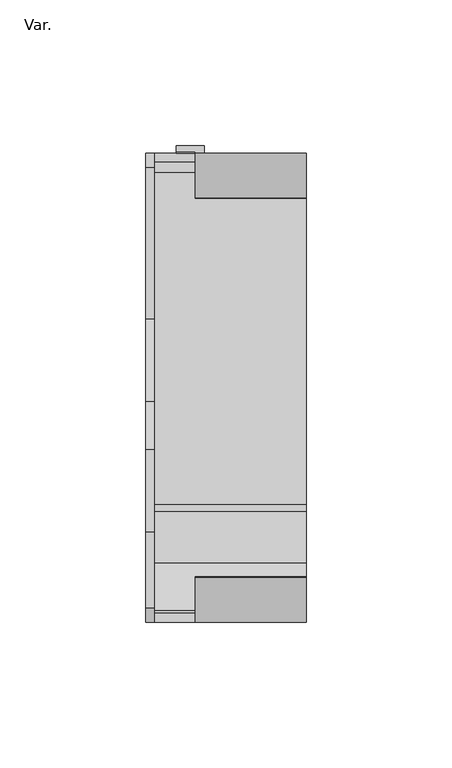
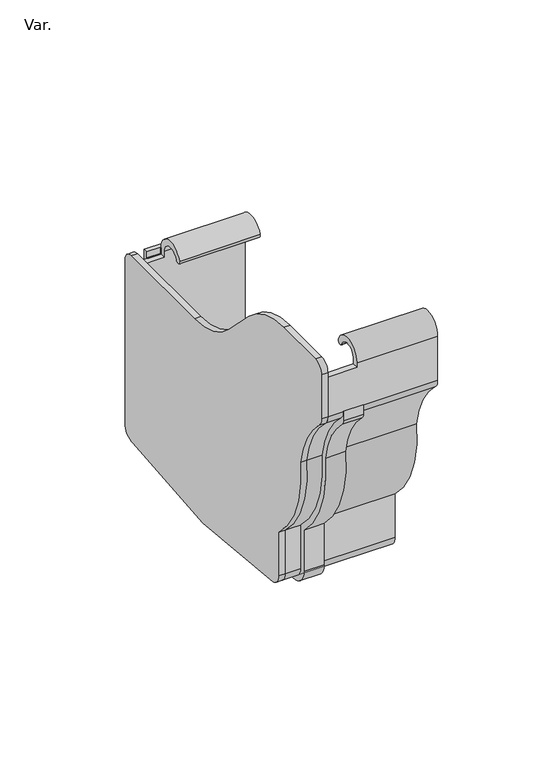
"""IFC4 building model written with IfcOpenShell, lengths in millimetres: pipe fitting geometry, PavcoWavin_UnionesDeTuberia_Canal Amazona_Tapa Izquierda Externa : Var.."""

from ifc_helpers import new_model, si_unit, frame, origin, place, context, project, spatial, polyline, circle_curve, source, transform, mapped, element, save
from ifc_brep_helpers import plane_surface, cylinder_surface, revolved_surface, advanced_brep


def var_52457260(model_context):
    return source(origin(), model_context, "Body", "AdvancedBrep", [
        advanced_brep(
        [(-55.0, 63.9333621, 95.4959393), (-55.0, 63.9333621, 13.8433205), (-55.0, 57.5122662, 7.8581156), (-55.0, -57.1983327, 7.9880254), (-55.0, -62.0670241, 13.8960326), (-55.0, -62.0670241, 35.6709016), (-55.0, -79.7697905, 81.3073788), (-55.0, -95.0881417, 109.0993235), (-55.0, -97.0620322, 113.5508008), (-55.0, -97.0620322, 135.5000106), (-55.0, -92.0620322, 140.5000106), (-55.0, -66.0531783, 140.5000106), (-55.0, -37.768907, 128.7842818), (-55.0, -21.1962934, 112.2116681), (-55.0, 7.0879779, 100.4959393), (-55.0, 58.9329759, 100.4959393), (-52.0, 63.9329759, 95.4959393), (-52.0, 58.9329759, 100.4959393), (-52.0, 7.0879779, 100.4959393), (-52.0, -21.1962934, 112.2116681), (-52.0, -37.7689071, 128.7842818), (-52.0, -66.0531783, 140.5000106), (-52.0, -92.0620322, 140.5000106), (-52.0, -97.0620322, 135.5000106), (-52.0, -97.0620322, 113.5508008), (-52.0, -95.0881417, 109.0993235), (-52.0, -79.7697905, 81.3073788), (-52.0, -62.0670241, 35.6709016), (-52.0, -62.0670241, 13.8960326), (-52.0, -57.1983327, 7.9880254), (-52.0, 57.5122662, 7.8581156), (-52.0, 63.9333621, 13.8433205)],
        [
            (0, 1),
            (1, 2, circle_curve(frame((-55.0, 57.9333621, 13.8433205), z_axis=(-1.0, 0.0, 0.0), x_axis=(0.0, -1.0, 0.0)), 6.0)),
            (2, 3, circle_curve(frame((-55.0, 0.4926203, 304.3058025), z_axis=(-1.0, 0.0, 0.0), x_axis=(0.0, -1.0, 0.0)), 301.8815514)),
            (3, 4, circle_curve(frame((-55.0, -56.048086, 13.8960326), z_axis=(-1.0, 0.0, 0.0), x_axis=(0.0, -1.0, 0.0)), 6.0189381)),
            (4, 5),
            (5, 6, circle_curve(frame((-55.0, -27.0899596, 75.4905571), z_axis=(-1.0, 0.0, 0.0), x_axis=(0.0, -1.0, 0.0)), 53.0)),
            (6, 7, circle_curve(frame((-55.0, -127.8669225, 72.914777), z_axis=(1.0, 0.0, 0.0), x_axis=(0.0, -1.0, 0.0)), 48.8238658)),
            (7, 8, circle_curve(frame((-55.0, -91.0556468, 113.5508008), z_axis=(-1.0, 0.0, 0.0), x_axis=(0.0, -1.0, 0.0)), 6.0063854)),
            (8, 9),
            (9, 10, circle_curve(frame((-55.0, -92.0620322, 135.5000106), z_axis=(-1.0, 0.0, 0.0), x_axis=(0.0, -1.0, 0.0)), 5.0)),
            (10, 11),
            (11, 12, circle_curve(frame((-55.0, -66.0531783, 100.5000106), z_axis=(-1.0, 0.0, 0.0), x_axis=(0.0, -1.0, 0.0)), 40.0)),
            (12, 13),
            (13, 14, circle_curve(frame((-55.0, 7.0879779, 140.4959393), z_axis=(1.0, 0.0, 0.0), x_axis=(0.0, -1.0, 0.0)), 40.0)),
            (14, 15),
            (15, 0, circle_curve(frame((-55.0, 58.9329759, 95.4959393), z_axis=(-1.0, 0.0, 0.0), x_axis=(0.0, -1.0, 0.0)), 5.0)),
            (16, 17, circle_curve(frame((-52.0, 58.9329759, 95.4959393), z_axis=(1.0, 0.0, 0.0), x_axis=(0.0, -1.0, 0.0)), 5.0)),
            (17, 18),
            (18, 19, circle_curve(frame((-52.0, 7.0879779, 140.4959393), z_axis=(-1.0, 0.0, 0.0), x_axis=(0.0, -1.0, 0.0)), 40.0)),
            (19, 20),
            (20, 21, circle_curve(frame((-52.0, -66.0531783, 100.5000106), z_axis=(1.0, 0.0, 0.0), x_axis=(0.0, -1.0, 0.0)), 40.0)),
            (21, 22),
            (22, 23, circle_curve(frame((-52.0, -92.0620322, 135.5000106), z_axis=(1.0, 0.0, 0.0), x_axis=(0.0, -1.0, 0.0)), 5.0)),
            (23, 24),
            (24, 25, circle_curve(frame((-52.0, -91.0556468, 113.5508008), z_axis=(1.0, 0.0, 0.0), x_axis=(0.0, -1.0, 0.0)), 6.0063854)),
            (25, 26, circle_curve(frame((-52.0, -127.8669225, 72.914777), z_axis=(-1.0, 0.0, 0.0), x_axis=(0.0, -1.0, 0.0)), 48.8238658)),
            (26, 27, circle_curve(frame((-52.0, -27.0899596, 75.4905571), z_axis=(1.0, 0.0, 0.0), x_axis=(0.0, -1.0, 0.0)), 53.0)),
            (27, 28),
            (28, 29, circle_curve(frame((-52.0, -56.048086, 13.8960326), z_axis=(1.0, 0.0, 0.0), x_axis=(0.0, -1.0, 0.0)), 6.0189381)),
            (29, 30, circle_curve(frame((-52.0, 0.4926203, 304.3058025), z_axis=(1.0, 0.0, 0.0), x_axis=(0.0, -1.0, 0.0)), 301.8815514)),
            (30, 31, circle_curve(frame((-52.0, 57.9333621, 13.8433205), z_axis=(1.0, 0.0, 0.0), x_axis=(0.0, -1.0, 0.0)), 6.0)),
            (31, 16),
            (14, 18),
            (17, 15),
            (13, 19),
            (12, 20),
            (11, 21),
            (10, 22),
            (8, 24),
            (23, 9),
            (7, 25),
            (6, 26),
            (5, 27),
            (4, 28),
            (3, 29),
            (2, 30),
            (1, 31),
            (0, 16),
        ],
        [
            plane_surface(frame((-55.0, 63.9333621, 13.8433205), z_axis=(-1.0, 0.0, 0.0), x_axis=(0.0, 0.0, -1.0))),
            plane_surface(frame((-52.0, 63.9333621, 13.8433205), z_axis=(1.0, 0.0, 0.0), x_axis=(0.0, 0.0, 1.0))),
            plane_surface(frame((-55.0, 7.0879779, 100.4959393), z_axis=(0.0, 0.0, 1.0), x_axis=(1.0, 0.0, 0.0))),
            revolved_surface(polyline([(-52.0, -32.9120221, 140.4959393), (-55.0, -32.9120221, 140.4959393)]), (-52.0, 7.0879779, 140.4959393), (1.0, 0.0, 0.0)),
            plane_surface(frame((-55.0, -37.7689071, 128.7842818), z_axis=(0.0, 0.7071067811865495, 0.7071067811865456), x_axis=(1.0, 0.0, 0.0))),
            cylinder_surface(frame((-52.0, -66.0531783, 100.5000106), z_axis=(-1.0, 0.0, 0.0), x_axis=(0.0, -1.0, 0.0)), 40.0),
            plane_surface(frame((-55.0, -92.0620322, 140.5000106), z_axis=(0.0, 0.0, 1.0), x_axis=(1.0, 0.0, 0.0))),
            plane_surface(frame((-55.0, -97.0620322, 113.5508008), z_axis=(0.0, -1.0, 0.0), x_axis=(1.0, 0.0, 0.0))),
            cylinder_surface(frame((-52.0, -91.0556468, 113.5508008), z_axis=(-1.0, 0.0, 0.0), x_axis=(0.0, -1.0, 0.0)), 6.0063854),
            revolved_surface(polyline([(-52.0, -176.6907883, 72.914777), (-55.0, -176.6907883, 72.914777)]), (-52.0, -127.8669225, 72.914777), (1.0, 0.0, 0.0)),
            cylinder_surface(frame((-52.0, -27.0899596, 75.4905571), z_axis=(-1.0, 0.0, 0.0), x_axis=(0.0, -1.0, 0.0)), 53.0),
            plane_surface(frame((-55.0, -62.0670241, 13.8960326), z_axis=(0.0, -1.0, 0.0), x_axis=(1.0, 0.0, 0.0))),
            cylinder_surface(frame((-52.0, -56.048086, 13.8960326), z_axis=(-1.0, 0.0, 0.0), x_axis=(0.0, -1.0, 0.0)), 6.0189381),
            cylinder_surface(frame((-52.0, 0.4926203, 304.3058025), z_axis=(-1.0, 0.0, 0.0), x_axis=(0.0, -1.0, 0.0)), 301.8815514),
            cylinder_surface(frame((-52.0, 57.9333621, 13.8433205), z_axis=(-1.0, 0.0, 0.0), x_axis=(0.0, -1.0, 0.0)), 6.0),
            plane_surface(frame((-55.0, 63.9333621, 95.4959393), z_axis=(0.0, 1.0, 0.0), x_axis=(1.0, 0.0, 0.0))),
            cylinder_surface(frame((-52.0, 58.9329759, 95.4959393), z_axis=(-1.0, 0.0, 0.0), x_axis=(0.0, -1.0, 0.0)), 5.0),
            cylinder_surface(frame((-52.0, -92.0620322, 135.5000106), z_axis=(-1.0, 0.0, 0.0), x_axis=(0.0, -1.0, 0.0)), 5.0),
        ],
        [
            (0, [[1, 2, 3, 4, 5, 6, 7, 8, 9, 10, 11, 12, 13, 14, 15, 16]]),
            (1, [[17, 18, 19, 20, 21, 22, 23, 24, 25, 26, 27, 28, 29, 30, 31, 32]]),
            (2, [[-15, 33, -18, 34]]),
            (3, [[-14, 35, -19, -33]]),
            (4, [[-13, 36, -20, -35]]),
            (5, [[-12, 37, -21, -36]]),
            (6, [[-11, 38, -22, -37]]),
            (7, [[-9, 39, -24, 40]]),
            (8, [[-8, 41, -25, -39]]),
            (9, [[-7, 42, -26, -41]]),
            (10, [[-6, 43, -27, -42]]),
            (11, [[-5, 44, -28, -43]]),
            (12, [[-4, 45, -29, -44]]),
            (13, [[-3, 46, -30, -45]]),
            (14, [[-2, 47, -31, -46]]),
            (15, [[-1, 48, -32, -47]]),
            (16, [[-16, -34, -17, -48]]),
            (17, [[-10, -40, -23, -38]]),
        ],
    ),
        advanced_brep(
        [(-38.0, 64.3329759, 92.5142277), (-38.0, 63.9333621, 92.5142277), (-38.0, 63.9333621, 95.4959393), (-38.0, 64.3329759, 95.4959393), (-44.5, 64.3329759, 95.4959393), (-44.5, 64.3329759, 92.5142277), (-44.5, 63.9333621, 92.5142277), (-35.0, 63.9333621, 13.8433205), (-35.0, 57.5122662, 7.8581156), (-35.0, -57.1983327, 7.9880254), (-35.0, -62.0670241, 13.8960326), (-35.0, -62.0670241, 35.6709016), (-35.0, -79.7697905, 81.3073788), (-35.0, -95.0881417, 109.0993235), (-35.0, -97.0620322, 113.5508008), (-35.0, -97.0620322, 108.8443434), (-35.0, -95.5375964, 106.1577389), (-35.0, -82.2895831, 81.2569737), (-35.0, -64.5670241, 34.5550024), (-35.0, -64.5670241, 13.8990047), (-35.0, -57.6697029, 5.5328655), (-35.0, 57.6872434, 5.3468845), (-35.0, 66.4333621, 13.8433205), (-35.0, 66.4333621, 95.4959393), (-35.0, 63.9333621, 95.4959393), (-44.5, 66.4333621, 95.4959393), (-44.5, 66.4333621, 13.8433205), (-44.5, 57.6872434, 5.3468845), (-44.5, -57.6697029, 5.5328655), (-44.5, -64.5670241, 13.8990047), (-44.5, -64.5670241, 34.5550024), (-44.5, -82.2895831, 81.2569737), (-44.5, -95.5375964, 106.1577389), (-44.5, -97.0620322, 108.8443434), (-44.5, -97.0620322, 113.5508008), (-44.5, -95.0881417, 109.0993235), (-44.5, -79.7697905, 81.3073788), (-44.5, -62.0670241, 35.6709016), (-44.5, -62.0670241, 13.8960326), (-44.5, -57.1983327, 7.9880254), (-44.5, 57.5122662, 7.8581156), (-44.5, 63.9333621, 13.8433205)],
        [
            (0, 1),
            (1, 2),
            (2, 3),
            (3, 0),
            (3, 4),
            (4, 5),
            (5, 0),
            (5, 6),
            (6, 1),
            (7, 8, circle_curve(frame((-35.0, 57.9333621, 13.8433205), z_axis=(-1.0, 0.0, 0.0), x_axis=(0.0, -1.0, 0.0)), 6.0)),
            (8, 9, circle_curve(frame((-35.0, 0.4973698, 308.4995991), z_axis=(-1.0, 0.0, 0.0), x_axis=(0.0, -1.0, 0.0)), 306.0)),
            (9, 10, circle_curve(frame((-35.0, -56.0670445, 13.8804092), z_axis=(-1.0, 0.0, 0.0), x_axis=(0.0, -1.0, 0.0)), 6.0)),
            (10, 11),
            (11, 12, circle_curve(frame((-35.0, -27.0899596, 75.4905571), z_axis=(-1.0, 0.0, 0.0), x_axis=(0.0, -1.0, 0.0)), 53.0)),
            (12, 13, circle_curve(frame((-35.0, -124.3078979, 74.8764385), z_axis=(1.0, 0.0, 0.0), x_axis=(0.0, -1.0, 0.0)), 45.0)),
            (13, 14, circle_curve(frame((-35.0, -91.4286587, 113.3853985), z_axis=(-1.0, 0.0, 0.0), x_axis=(0.0, -1.0, 0.0)), 5.6358012)),
            (14, 15),
            (15, 16, circle_curve(frame((-35.0, -92.121652, 109.8718183), z_axis=(1.0, 0.0, 0.0), x_axis=(0.0, -1.0, 0.0)), 5.0460937)),
            (16, 17, circle_curve(frame((-35.0, -124.3078979, 74.8764385), z_axis=(-1.0, 0.0, 0.0), x_axis=(0.0, -1.0, 0.0)), 42.5)),
            (17, 18, circle_curve(frame((-35.0, -27.0899596, 75.4905571), z_axis=(1.0, 0.0, 0.0), x_axis=(0.0, -1.0, 0.0)), 55.5)),
            (18, 19),
            (19, 20, circle_curve(frame((-35.0, -56.0670445, 13.8804092), z_axis=(1.0, 0.0, 0.0), x_axis=(0.0, -1.0, 0.0)), 8.5)),
            (20, 21, circle_curve(frame((-35.0, 0.4973698, 308.4995991), z_axis=(1.0, 0.0, 0.0), x_axis=(0.0, -1.0, 0.0)), 308.5)),
            (21, 22, circle_curve(frame((-35.0, 57.9333621, 13.8433205), z_axis=(1.0, 0.0, 0.0), x_axis=(0.0, -1.0, 0.0)), 8.5)),
            (22, 23),
            (23, 24),
            (24, 7),
            (25, 26),
            (26, 27, circle_curve(frame((-44.5, 57.9333621, 13.8433205), z_axis=(-1.0, 0.0, 0.0), x_axis=(0.0, -1.0, 0.0)), 8.5)),
            (27, 28, circle_curve(frame((-44.5, 0.4973698, 308.4995991), z_axis=(-1.0, 0.0, 0.0), x_axis=(0.0, -1.0, 0.0)), 308.5)),
            (28, 29, circle_curve(frame((-44.5, -56.0670445, 13.8804092), z_axis=(-1.0, 0.0, 0.0), x_axis=(0.0, -1.0, 0.0)), 8.5)),
            (29, 30),
            (30, 31, circle_curve(frame((-44.5, -27.0899596, 75.4905571), z_axis=(-1.0, 0.0, 0.0), x_axis=(0.0, -1.0, 0.0)), 55.5)),
            (31, 32, circle_curve(frame((-44.5, -124.3078979, 74.8764385), z_axis=(1.0, 0.0, 0.0), x_axis=(0.0, -1.0, 0.0)), 42.5)),
            (32, 33, circle_curve(frame((-44.5, -92.121652, 109.8718183), z_axis=(-1.0, 0.0, 0.0), x_axis=(0.0, -1.0, 0.0)), 5.0460937)),
            (33, 34),
            (34, 35, circle_curve(frame((-44.5, -91.4286587, 113.3853985), z_axis=(1.0, 0.0, 0.0), x_axis=(0.0, -1.0, 0.0)), 5.6358012)),
            (35, 36, circle_curve(frame((-44.5, -124.3078979, 74.8764385), z_axis=(-1.0, 0.0, 0.0), x_axis=(0.0, -1.0, 0.0)), 45.0)),
            (36, 37, circle_curve(frame((-44.5, -27.0899596, 75.4905571), z_axis=(1.0, 0.0, 0.0), x_axis=(0.0, -1.0, 0.0)), 53.0)),
            (37, 38),
            (38, 39, circle_curve(frame((-44.5, -56.0670445, 13.8804092), z_axis=(1.0, 0.0, 0.0), x_axis=(0.0, -1.0, 0.0)), 6.0)),
            (39, 40, circle_curve(frame((-44.5, 0.4973698, 308.4995991), z_axis=(1.0, 0.0, 0.0), x_axis=(0.0, -1.0, 0.0)), 306.0)),
            (40, 41, circle_curve(frame((-44.5, 57.9333621, 13.8433205), z_axis=(1.0, 0.0, 0.0), x_axis=(0.0, -1.0, 0.0)), 6.0)),
            (41, 6),
            (4, 25),
            (24, 2),
            (41, 7),
            (40, 8),
            (39, 9),
            (38, 10),
            (37, 11),
            (36, 12),
            (35, 13),
            (34, 14),
            (33, 15),
            (32, 16),
            (31, 17),
            (30, 18),
            (29, 19),
            (28, 20),
            (27, 21),
            (26, 22),
            (25, 23),
        ],
        [
            plane_surface(frame((-38.0, -97.5403218, 133.3051321), z_axis=(-1.0, 0.0, 0.0), x_axis=(0.0, 0.0, -1.0))),
            plane_surface(frame((-52.0, 64.3329759, 108.4617617), z_axis=(0.0, -1.0, 0.0), x_axis=(1.0, 0.0, 0.0))),
            plane_surface(frame((-52.0, 64.3329759, 92.5142277), z_axis=(0.0, 0.0, 1.0), x_axis=(1.0, 0.0, 0.0))),
            plane_surface(frame((-35.0, 63.9333621, 95.4959393), z_axis=(1.0, 0.0, 0.0), x_axis=(0.0, 0.0, -1.0))),
            plane_surface(frame((-44.5, 63.9333621, 95.4959393), z_axis=(-1.0, 0.0, 0.0), x_axis=(0.0, 0.0, 1.0))),
            plane_surface(frame((-44.5, 63.9333621, 13.8433205), z_axis=(0.0, -1.0, 0.0), x_axis=(1.0, 0.0, 0.0))),
            revolved_surface(polyline([(-35.0, 51.9333621, 13.8433205), (-44.5, 51.9333621, 13.8433205)]), (-35.0, 57.9333621, 13.8433205), (1.0, 0.0, 0.0)),
            revolved_surface(polyline([(-35.0, -305.5026302, 308.4995991), (-44.5, -305.5026302, 308.4995991)]), (-35.0, 0.4973698, 308.4995991), (1.0, 0.0, 0.0)),
            revolved_surface(polyline([(-35.0, -62.0670445, 13.8804092), (-44.5, -62.0670445, 13.8804092)]), (-35.0, -56.0670445, 13.8804092), (1.0, 0.0, 0.0)),
            plane_surface(frame((-44.5, -62.0670241, 35.6709016), z_axis=(0.0, 1.0, 0.0), x_axis=(1.0, 0.0, 0.0))),
            revolved_surface(polyline([(-35.0, -80.0899596, 75.4905571), (-44.5, -80.0899596, 75.4905571)]), (-35.0, -27.0899596, 75.4905571), (1.0, 0.0, 0.0)),
            cylinder_surface(frame((-35.0, -124.3078979, 74.8764385), z_axis=(-1.0, 0.0, 0.0), x_axis=(0.0, -1.0, 0.0)), 45.0),
            revolved_surface(polyline([(-35.0, -97.0644599, 113.3853985), (-44.5, -97.0644599, 113.3853985)]), (-35.0, -91.4286587, 113.3853985), (1.0, 0.0, 0.0)),
            plane_surface(frame((-44.5, -97.0620322, 108.8443434), z_axis=(0.0, -1.0, 0.0), x_axis=(1.0, 0.0, 0.0))),
            cylinder_surface(frame((-35.0, -92.121652, 109.8718183), z_axis=(-1.0, 0.0, 0.0), x_axis=(0.0, -1.0, 0.0)), 5.0460937),
            revolved_surface(polyline([(-35.0, -166.8078979, 74.8764385), (-44.5, -166.8078979, 74.8764385)]), (-35.0, -124.3078979, 74.8764385), (1.0, 0.0, 0.0)),
            cylinder_surface(frame((-35.0, -27.0899596, 75.4905571), z_axis=(-1.0, 0.0, 0.0), x_axis=(0.0, -1.0, 0.0)), 55.5),
            plane_surface(frame((-44.5, -64.5670241, 13.8990047), z_axis=(0.0, -1.0, 0.0), x_axis=(1.0, 0.0, 0.0))),
            cylinder_surface(frame((-35.0, -56.0670445, 13.8804092), z_axis=(-1.0, 0.0, 0.0), x_axis=(0.0, -1.0, 0.0)), 8.5),
            cylinder_surface(frame((-35.0, 0.4973698, 308.4995991), z_axis=(-1.0, 0.0, 0.0), x_axis=(0.0, -1.0, 0.0)), 308.5),
            cylinder_surface(frame((-35.0, 57.9333621, 13.8433205), z_axis=(-1.0, 0.0, 0.0), x_axis=(0.0, -1.0, 0.0)), 8.5),
            plane_surface(frame((-44.5, 66.4333621, 95.4959393), z_axis=(0.0, 1.0, 0.0), x_axis=(1.0, 0.0, 0.0))),
            plane_surface(frame((-44.5, 63.9333621, 95.4959393), z_axis=(0.0, 0.0, 1.0), x_axis=(1.0, 0.0, 0.0))),
        ],
        [
            (0, [[1, 2, 3, 4]]),
            (1, [[-4, 5, 6, 7]]),
            (2, [[-1, -7, 8, 9]]),
            (3, [[10, 11, 12, 13, 14, 15, 16, 17, 18, 19, 20, 21, 22, 23, 24, 25, 26, 27]]),
            (4, [[28, 29, 30, 31, 32, 33, 34, 35, 36, 37, 38, 39, 40, 41, 42, 43, 44, -8, -6, 45]]),
            (5, [[-27, 46, -2, -9, -44, 47]]),
            (6, [[-10, -47, -43, 48]]),
            (7, [[-11, -48, -42, 49]]),
            (8, [[-12, -49, -41, 50]]),
            (9, [[-13, -50, -40, 51]]),
            (10, [[-14, -51, -39, 52]]),
            (11, [[-15, -52, -38, 53]]),
            (12, [[-16, -53, -37, 54]]),
            (13, [[-17, -54, -36, 55]]),
            (14, [[-18, -55, -35, 56]]),
            (15, [[-19, -56, -34, 57]]),
            (16, [[-20, -57, -33, 58]]),
            (17, [[-21, -58, -32, 59]]),
            (18, [[-22, -59, -31, 60]]),
            (19, [[-23, -60, -30, 61]]),
            (20, [[-24, -61, -29, 62]]),
            (21, [[-25, -62, -28, 63]]),
            (22, [[-26, -63, -45, -5, -3, -46]]),
        ],
    ),
        advanced_brep(
        [(-52.0, 63.9329759, 13.9113963), (-52.0, 57.5122662, 7.8581156), (-52.0, -57.1983327, 7.9880254), (-52.0, -62.0670241, 13.8960326), (-52.0, -62.0670241, 35.6709016), (-52.0, -79.7697905, 81.3073788), (-52.0, -94.9541627, 108.9844762), (-52.0, -97.0620322, 113.5508008), (-52.0, -97.0620322, 133.3051321), (-52.0, -94.0620322, 133.3051321), (-52.0, -94.0620322, 113.5508008), (-52.0, -93.0036751, 111.2638765), (-52.0, -76.7459019, 81.3461013), (-52.0, -59.0670241, 37.0527196), (-52.0, -59.0670241, 13.8914566), (-52.0, -56.6326886, 10.9342173), (-52.0, 57.4012665, 10.8908852), (-52.0, 60.9329759, 13.8914566), (-52.0, 60.9329759, 92.5142277), (-52.0, 63.9329759, 92.5142277), (0.0, 60.9329759, 95.4959393), (0.0, 60.9329759, 13.8914566), (0.0, 57.4012665, 10.8908852), (0.0, -56.6326886, 10.9342173), (0.0, -59.0670241, 13.8914566), (0.0, -59.0670241, 37.0527196), (0.0, -76.7459019, 81.3461013), (0.0, -93.0036751, 111.2638765), (0.0, -94.0620322, 113.5508008), (0.0, -94.0620322, 135.5000106), (0.0, -84.3677728, 137.2216169), (0.0, -81.5512171, 138.2545807), (0.0, -97.0620322, 135.5000106), (0.0, -97.0620322, 113.5508008), (0.0, -94.9541627, 108.9844762), (0.0, -79.7697905, 81.3073788), (0.0, -62.0670241, 35.6709016), (0.0, -62.0670241, 13.8960326), (0.0, -57.1983327, 7.9880254), (0.0, 57.5122662, 7.8581156), (0.0, 63.9329759, 13.9113963), (0.0, 63.9329759, 95.4959393), (0.0, 48.4221608, 98.2505094), (0.0, 51.2387165, 97.2175456), (-38.0, 60.9329759, 95.4959393), (-38.0, 60.9329759, 92.5142277), (-38.0, -94.0620322, 133.3051321), (-38.0, -94.0620322, 135.5000106), (-38.0, -84.3677728, 137.2216169), (-38.0, -81.5512171, 138.2545807), (-38.0, -97.0620322, 135.5000106), (-38.0, -97.0620322, 133.3051321), (-38.0, 63.9329759, 92.5142277), (-38.0, 63.9329759, 95.4959393), (-38.0, 48.4221608, 98.2505094), (-38.0, 51.2387165, 97.2175456)],
        [
            (0, 1, circle_curve(frame((-52.0, 57.9333621, 13.8433205), z_axis=(-1.0, 0.0, 0.0), x_axis=(0.0, 1.0, 0.0)), 6.0)),
            (1, 2, circle_curve(frame((-52.0, 0.4973698, 308.4995991), z_axis=(-1.0, 0.0, 0.0), x_axis=(0.0, -1.0, 0.0)), 306.0)),
            (2, 3, circle_curve(frame((-52.0, -56.0670445, 13.8804092), z_axis=(-1.0, 0.0, 0.0), x_axis=(0.0, -1.0, 0.0)), 6.0)),
            (3, 4),
            (4, 5, circle_curve(frame((-52.0, -27.0899596, 75.4905571), z_axis=(-1.0, 0.0, 0.0), x_axis=(0.0, -1.0, 0.0)), 53.0)),
            (5, 6, circle_curve(frame((-52.0, -124.3078979, 74.8764385), z_axis=(1.0, 0.0, 0.0), x_axis=(0.0, -1.0, 0.0)), 45.0)),
            (6, 7, circle_curve(frame((-52.0, -91.0620322, 113.5508008), z_axis=(-1.0, 0.0, 0.0), x_axis=(0.0, -1.0, 0.0)), 6.0)),
            (7, 8),
            (8, 9),
            (9, 10),
            (10, 11, circle_curve(frame((-52.0, -91.0620322, 113.5508008), z_axis=(1.0, 0.0, 0.0), x_axis=(0.0, -1.0, 0.0)), 3.0)),
            (11, 12, circle_curve(frame((-52.0, -124.3078979, 74.8764385), z_axis=(-1.0, 0.0, 0.0), x_axis=(0.0, -1.0, 0.0)), 48.0)),
            (12, 13, circle_curve(frame((-52.0, -27.0899596, 75.4905571), z_axis=(1.0, 0.0, 0.0), x_axis=(0.0, -1.0, 0.0)), 50.0)),
            (13, 14),
            (14, 15, circle_curve(frame((-52.0, -56.0670445, 13.8804092), z_axis=(1.0, 0.0, 0.0), x_axis=(0.0, -1.0, 0.0)), 3.0)),
            (15, 16, circle_curve(frame((-52.0, 0.4973698, 308.4995991), z_axis=(1.0, 0.0, 0.0), x_axis=(0.0, -1.0, 0.0)), 303.0)),
            (16, 17, circle_curve(frame((-52.0, 57.9333621, 13.8433205), z_axis=(1.0, 0.0, 0.0), x_axis=(0.0, 1.0, 0.0)), 3.0)),
            (17, 18),
            (18, 19),
            (19, 0),
            (20, 21),
            (21, 22, circle_curve(frame((0.0, 57.9333621, 13.8433205), z_axis=(-1.0, 0.0, 0.0), x_axis=(0.0, 1.0, 0.0)), 3.0)),
            (22, 23, circle_curve(frame((0.0, 0.4973698, 308.4995991), z_axis=(-1.0, 0.0, 0.0), x_axis=(0.0, -1.0, 0.0)), 303.0)),
            (23, 24, circle_curve(frame((0.0, -56.0670445, 13.8804092), z_axis=(-1.0, 0.0, 0.0), x_axis=(0.0, -1.0, 0.0)), 3.0)),
            (24, 25),
            (25, 26, circle_curve(frame((0.0, -27.0899596, 75.4905571), z_axis=(-1.0, 0.0, 0.0), x_axis=(0.0, -1.0, 0.0)), 50.0)),
            (26, 27, circle_curve(frame((0.0, -124.3078979, 74.8764385), z_axis=(1.0, 0.0, 0.0), x_axis=(0.0, -1.0, 0.0)), 48.0)),
            (27, 28, circle_curve(frame((0.0, -91.0620322, 113.5508008), z_axis=(-1.0, 0.0, 0.0), x_axis=(0.0, -1.0, 0.0)), 3.0)),
            (28, 29),
            (29, 30, circle_curve(frame((0.0, -89.0620322, 135.5000106), z_axis=(-1.0, 0.0, 0.0), x_axis=(0.0, -1.0, 0.0)), 5.0)),
            (30, 31, circle_curve(frame((0.0, -82.959495, 137.7380988), z_axis=(1.0, 0.0, 0.0), x_axis=(0.0, -1.0, 0.0)), 1.5)),
            (31, 32, circle_curve(frame((0.0, -89.0620322, 135.5000106), z_axis=(1.0, 0.0, 0.0), x_axis=(0.0, -1.0, 0.0)), 8.0)),
            (32, 33),
            (33, 34, circle_curve(frame((0.0, -91.0620322, 113.5508008), z_axis=(1.0, 0.0, 0.0), x_axis=(0.0, -1.0, 0.0)), 6.0)),
            (34, 35, circle_curve(frame((0.0, -124.3078979, 74.8764385), z_axis=(-1.0, 0.0, 0.0), x_axis=(0.0, -1.0, 0.0)), 45.0)),
            (35, 36, circle_curve(frame((0.0, -27.0899596, 75.4905571), z_axis=(1.0, 0.0, 0.0), x_axis=(0.0, -1.0, 0.0)), 53.0)),
            (36, 37),
            (37, 38, circle_curve(frame((0.0, -56.0670445, 13.8804092), z_axis=(1.0, 0.0, 0.0), x_axis=(0.0, -1.0, 0.0)), 6.0)),
            (38, 39, circle_curve(frame((0.0, 0.4973698, 308.4995991), z_axis=(1.0, 0.0, 0.0), x_axis=(0.0, -1.0, 0.0)), 306.0)),
            (39, 40, circle_curve(frame((0.0, 57.9333621, 13.8433205), z_axis=(1.0, 0.0, 0.0), x_axis=(0.0, 1.0, 0.0)), 6.0)),
            (40, 41),
            (41, 42, circle_curve(frame((0.0, 55.9329759, 95.4959393), z_axis=(1.0, 0.0, 0.0), x_axis=(0.0, 1.0, 0.0)), 8.0)),
            (42, 43, circle_curve(frame((0.0, 49.8304386, 97.7340275), z_axis=(1.0, 0.0, 0.0), x_axis=(0.0, 1.0, 0.0)), 1.5)),
            (43, 20, circle_curve(frame((0.0, 55.9329759, 95.4959393), z_axis=(-1.0, 0.0, 0.0), x_axis=(0.0, 1.0, 0.0)), 5.0)),
            (20, 44),
            (44, 45),
            (45, 18),
            (17, 21),
            (16, 22),
            (15, 23),
            (14, 24),
            (13, 25),
            (12, 26),
            (11, 27),
            (10, 28),
            (9, 46),
            (46, 47),
            (47, 29),
            (47, 48, circle_curve(frame((-38.0, -89.0620322, 135.5000106), z_axis=(-1.0, 0.0, 0.0), x_axis=(0.0, -1.0, 0.0)), 5.0)),
            (48, 30),
            (48, 49, circle_curve(frame((-38.0, -82.959495, 137.7380988), z_axis=(1.0, 0.0, 0.0), x_axis=(0.0, -1.0, 0.0)), 1.5)),
            (49, 31),
            (49, 50, circle_curve(frame((-38.0, -89.0620322, 135.5000106), z_axis=(1.0, 0.0, 0.0), x_axis=(0.0, -1.0, 0.0)), 8.0)),
            (50, 32),
            (50, 51),
            (51, 8),
            (7, 33),
            (6, 34),
            (5, 35),
            (4, 36),
            (3, 37),
            (2, 38),
            (1, 39),
            (0, 40),
            (19, 52),
            (52, 53),
            (53, 41),
            (53, 54, circle_curve(frame((-38.0, 55.9329759, 95.4959393), z_axis=(1.0, 0.0, 0.0), x_axis=(0.0, 1.0, 0.0)), 8.0)),
            (54, 42),
            (54, 55, circle_curve(frame((-38.0, 49.8304386, 97.7340275), z_axis=(1.0, 0.0, 0.0), x_axis=(0.0, 1.0, 0.0)), 1.5)),
            (55, 43),
            (55, 44, circle_curve(frame((-38.0, 55.9329759, 95.4959393), z_axis=(-1.0, 0.0, 0.0), x_axis=(0.0, 1.0, 0.0)), 5.0)),
            (46, 51),
            (52, 45),
        ],
        [
            plane_surface(frame((-52.0, 60.9329759, 95.4959393), z_axis=(-1.0, 0.0, 0.0), x_axis=(0.0, 0.0, 1.0))),
            plane_surface(frame((0.0, 60.9329759, 95.4959393), z_axis=(1.0, 0.0, 0.0), x_axis=(0.0, 0.0, -1.0))),
            plane_surface(frame((-52.0, 60.9329759, 13.8914566), z_axis=(0.0, -1.0, 0.0), x_axis=(1.0, 0.0, 0.0))),
            revolved_surface(polyline([(0.0, 60.9333621, 13.8433205), (-52.0, 60.9333621, 13.8433205)]), (0.0, 57.9333621, 13.8433205), (1.0, 0.0, 0.0)),
            revolved_surface(polyline([(0.0, -302.5026302, 308.4995991), (-52.0, -302.5026302, 308.4995991)]), (0.0, 0.4973698, 308.4995991), (1.0, 0.0, 0.0)),
            revolved_surface(polyline([(0.0, -59.0670445, 13.8804092), (-52.0, -59.0670445, 13.8804092)]), (0.0, -56.0670445, 13.8804092), (1.0, 0.0, 0.0)),
            plane_surface(frame((-52.0, -59.0670241, 37.0527196), z_axis=(0.0, 1.0, 0.0), x_axis=(1.0, 0.0, 0.0))),
            revolved_surface(polyline([(0.0, -77.0899596, 75.4905571), (-52.0, -77.0899596, 75.4905571)]), (0.0, -27.0899596, 75.4905571), (1.0, 0.0, 0.0)),
            cylinder_surface(frame((0.0, -124.3078979, 74.8764385), z_axis=(-1.0, 0.0, 0.0), x_axis=(0.0, -1.0, 0.0)), 48.0),
            revolved_surface(polyline([(0.0, -94.0620322, 113.5508008), (-52.0, -94.0620322, 113.5508008)]), (0.0, -91.0620322, 113.5508008), (1.0, 0.0, 0.0)),
            plane_surface(frame((-52.0, -94.0620322, 135.5000106), z_axis=(0.0, 1.0, 0.0), x_axis=(1.0, 0.0, 0.0))),
            revolved_surface(polyline([(0.0, -94.0620322, 135.5000106), (-38.0, -94.0620322, 135.5000106)]), (0.0, -89.0620322, 135.5000106), (1.0, 0.0, 0.0)),
            cylinder_surface(frame((0.0, -82.959495, 137.7380988), z_axis=(-1.0, 0.0, 0.0), x_axis=(0.0, -1.0, 0.0)), 1.5),
            cylinder_surface(frame((0.0, -89.0620322, 135.5000106), z_axis=(-1.0, 0.0, 0.0), x_axis=(0.0, -1.0, 0.0)), 8.0),
            plane_surface(frame((-52.0, -97.0620322, 113.5508008), z_axis=(0.0, -1.0, 0.0), x_axis=(1.0, 0.0, 0.0))),
            cylinder_surface(frame((0.0, -91.0620322, 113.5508008), z_axis=(-1.0, 0.0, 0.0), x_axis=(0.0, -1.0, 0.0)), 6.0),
            revolved_surface(polyline([(0.0, -169.3078979, 74.8764385), (-52.0, -169.3078979, 74.8764385)]), (0.0, -124.3078979, 74.8764385), (1.0, 0.0, 0.0)),
            cylinder_surface(frame((0.0, -27.0899596, 75.4905571), z_axis=(-1.0, 0.0, 0.0), x_axis=(0.0, -1.0, 0.0)), 53.0),
            plane_surface(frame((-52.0, -62.0670241, 13.8960326), z_axis=(0.0, -1.0, 0.0), x_axis=(1.0, 0.0, 0.0))),
            cylinder_surface(frame((0.0, -56.0670445, 13.8804092), z_axis=(-1.0, 0.0, 0.0), x_axis=(0.0, -1.0, 0.0)), 6.0),
            cylinder_surface(frame((0.0, 0.4973698, 308.4995991), z_axis=(-1.0, 0.0, 0.0), x_axis=(0.0, -1.0, 0.0)), 306.0),
            cylinder_surface(frame((0.0, 57.9333621, 13.8433205), z_axis=(-1.0, 0.0, 0.0), x_axis=(0.0, 1.0, 0.0)), 6.0),
            plane_surface(frame((-52.0, 63.9329759, 95.4959393), z_axis=(0.0, 1.0, 0.0), x_axis=(1.0, 0.0, 0.0))),
            cylinder_surface(frame((0.0, 55.9329759, 95.4959393), z_axis=(-1.0, 0.0, 0.0), x_axis=(0.0, 1.0, 0.0)), 8.0),
            cylinder_surface(frame((0.0, 49.8304386, 97.7340275), z_axis=(-1.0, 0.0, 0.0), x_axis=(0.0, 1.0, 0.0)), 1.5),
            revolved_surface(polyline([(0.0, 60.9329759, 95.4959393), (-38.0, 60.9329759, 95.4959393)]), (0.0, 55.9329759, 95.4959393), (1.0, 0.0, 0.0)),
            plane_surface(frame((-38.0, -97.5403218, 133.3051321), z_axis=(-1.0, 0.0, 0.0), x_axis=(0.0, 0.0, -1.0))),
            plane_surface(frame((-52.0, -80.6941466, 133.3051321), z_axis=(0.0, 0.0, 1.0), x_axis=(1.0, 0.0, 0.0))),
            plane_surface(frame((-52.0, 64.3329759, 92.5142277), z_axis=(0.0, 0.0, 1.0), x_axis=(1.0, 0.0, 0.0))),
        ],
        [
            (0, [[1, 2, 3, 4, 5, 6, 7, 8, 9, 10, 11, 12, 13, 14, 15, 16, 17, 18, 19, 20]]),
            (1, [[21, 22, 23, 24, 25, 26, 27, 28, 29, 30, 31, 32, 33, 34, 35, 36, 37, 38, 39, 40, 41, 42, 43, 44]]),
            (2, [[-21, 45, 46, 47, -18, 48]]),
            (3, [[-17, 49, -22, -48]]),
            (4, [[-16, 50, -23, -49]]),
            (5, [[-15, 51, -24, -50]]),
            (6, [[-14, 52, -25, -51]]),
            (7, [[-13, 53, -26, -52]]),
            (8, [[-12, 54, -27, -53]]),
            (9, [[-11, 55, -28, -54]]),
            (10, [[-29, -55, -10, 56, 57, 58]]),
            (11, [[-30, -58, 59, 60]]),
            (12, [[-31, -60, 61, 62]]),
            (13, [[-32, -62, 63, 64]]),
            (14, [[-33, -64, 65, 66, -8, 67]]),
            (15, [[-7, 68, -34, -67]]),
            (16, [[-6, 69, -35, -68]]),
            (17, [[-5, 70, -36, -69]]),
            (18, [[-4, 71, -37, -70]]),
            (19, [[-3, 72, -38, -71]]),
            (20, [[-2, 73, -39, -72]]),
            (21, [[-1, 74, -40, -73]]),
            (22, [[-41, -74, -20, 75, 76, 77]]),
            (23, [[-42, -77, 78, 79]]),
            (24, [[-43, -79, 80, 81]]),
            (25, [[-44, -81, 82, -45]]),
            (26, [[83, -65, -63, -61, -59, -57]]),
            (26, [[84, -46, -82, -80, -78, -76]]),
            (27, [[-83, -56, -9, -66]]),
            (28, [[-84, -75, -19, -47]]),
        ],
    ),
    ])


if __name__ == "__main__":
    model = new_model("IFC4")
    model_context = context("Model", 3, world=origin())
    ifc_project = project(units=[si_unit("LENGTHUNIT", "METRE", prefix="MILLI")], contexts=[model_context])
    site = spatial("IfcSite", under=ifc_project)
    building = spatial("IfcBuilding", under=site)
    placement = place(None, origin())
    var_shape = var_52457260(model_context)
    element("IfcPipeFitting", 1, ObjectType="PavcoWavin_UnionesDeTuberia_Canal Amazona_Tapa Izquierda Externa : Var.", at=placement, inside=building, context=model_context, shape_type="MappedRepresentation", body=[
        mapped(var_shape, transform((0.0, 0.0, 0.0), x_axis=(1.0, 0.0, 0.0), y_axis=(0.0, 1.0, 0.0), z_axis=(0.0, 0.0, 1.0))),
    ])
    save(model, "model.ifc")
